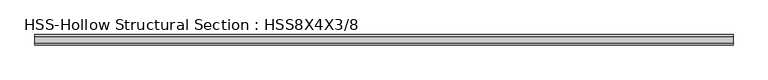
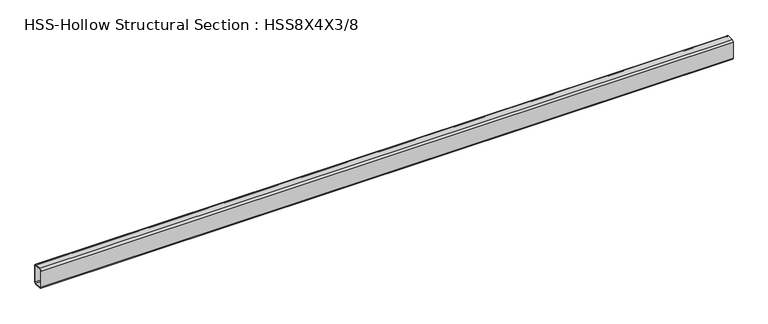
"""IFC4 building model written with IfcOpenShell, lengths in millimetres: beam geometry, HSS-Hollow Structural Section : HSS8X4X3/8."""

from ifc_helpers import new_model, si_unit, point, frame, frame_2d, origin, place, context, project, spatial, polyline, circle_curve, trimmed, segment, composite_curve, outline, extrude, source, transform, mapped, element, save


def hss_hollow_structural_section_hss8x4x3_8_104aa16b(model_context):
    return source(origin(), model_context, "Body", "SweptSolid", [
        extrude(outline(composite_curve([segment(polyline([(50.8, 83.8708), (50.8, -83.8708)]), True, "CONTINUOUS"), segment(trimmed(circle_curve(frame_2d((33.0708, -83.8708)), 17.7292), [point((50.8, -83.8708))], [point((33.0708, -101.6))], False, "CARTESIAN"), True, "CONTINUOUS"), segment(polyline([(33.0708, -101.6), (-33.0708, -101.6)]), True, "CONTINUOUS"), segment(trimmed(circle_curve(frame_2d((-33.0708, -83.8708)), 17.7292), [point((-33.0708, -101.6))], [point((-50.8, -83.8708))], False, "CARTESIAN"), True, "CONTINUOUS"), segment(polyline([(-50.8, -83.8708), (-50.8, 83.8708)]), True, "CONTINUOUS"), segment(trimmed(circle_curve(frame_2d((-33.0708, 83.8708)), 17.7292), [point((-50.8, 83.8708))], [point((-33.0708, 101.6))], False, "CARTESIAN"), True, "CONTINUOUS"), segment(polyline([(-33.0708, 101.6), (33.0708, 101.6)]), True, "CONTINUOUS"), segment(trimmed(circle_curve(frame_2d((33.0708, 83.8708)), 17.7292), [point((33.0708, 101.6))], [point((50.8, 83.8708))], False, "CARTESIAN"), True, "CONTINUOUS")], self_intersect=False), holes=[composite_curve([segment(trimmed(circle_curve(frame_2d((-33.0708, 83.8708)), 8.8646), [point((-33.0708, 92.7354))], [point((-41.9354, 83.8708))], True, "CARTESIAN"), True, "CONTINUOUS"), segment(polyline([(-41.9354, 83.8708), (-41.9354, -83.8708)]), True, "CONTINUOUS"), segment(trimmed(circle_curve(frame_2d((-33.0708, -83.8708)), 8.8646), [point((-41.9354, -83.8708))], [point((-33.0708, -92.7354))], True, "CARTESIAN"), True, "CONTINUOUS"), segment(polyline([(-33.0708, -92.7354), (33.0708, -92.7354)]), True, "CONTINUOUS"), segment(trimmed(circle_curve(frame_2d((33.0708, -83.8708)), 8.8646), [point((33.0708, -92.7354))], [point((41.9354, -83.8708))], True, "CARTESIAN"), True, "CONTINUOUS"), segment(polyline([(41.9354, -83.8708), (41.9354, 83.8708)]), True, "CONTINUOUS"), segment(trimmed(circle_curve(frame_2d((33.0708, 83.8708)), 8.8646), [point((41.9354, 83.8708))], [point((33.0708, 92.7354))], True, "CARTESIAN"), True, "CONTINUOUS"), segment(polyline([(33.0708, 92.7354), (-33.0708, 92.7354)]), True, "CONTINUOUS")], self_intersect=False)]), frame((-3400.6895833, 0.0, 0.0), z_axis=(1.0, 0.0, 0.0), x_axis=(0.0, 1.0, 0.0)), (0.0, 0.0, 1.0), 6883.4),
    ])


if __name__ == "__main__":
    model = new_model("IFC4")
    model_context = context("Model", 3, world=origin())
    ifc_project = project(units=[si_unit("LENGTHUNIT", "METRE", prefix="MILLI")], contexts=[model_context])
    site = spatial("IfcSite", under=ifc_project)
    building = spatial("IfcBuilding", under=site)
    placement = place(None, origin())
    hss_hollow_structural_section_hss8x4x3_8_shape = hss_hollow_structural_section_hss8x4x3_8_104aa16b(model_context)
    element("IfcBeam", 1, ObjectType="HSS-Hollow Structural Section : HSS8X4X3/8", at=placement, inside=building, context=model_context, shape_type="MappedRepresentation", body=[
        mapped(hss_hollow_structural_section_hss8x4x3_8_shape, transform((0.0, 0.0, 0.0), x_axis=(1.0, 0.0, 0.0), y_axis=(0.0, 1.0, 0.0), z_axis=(0.0, 0.0, 1.0))),
    ])
    save(model, "model.ifc")
